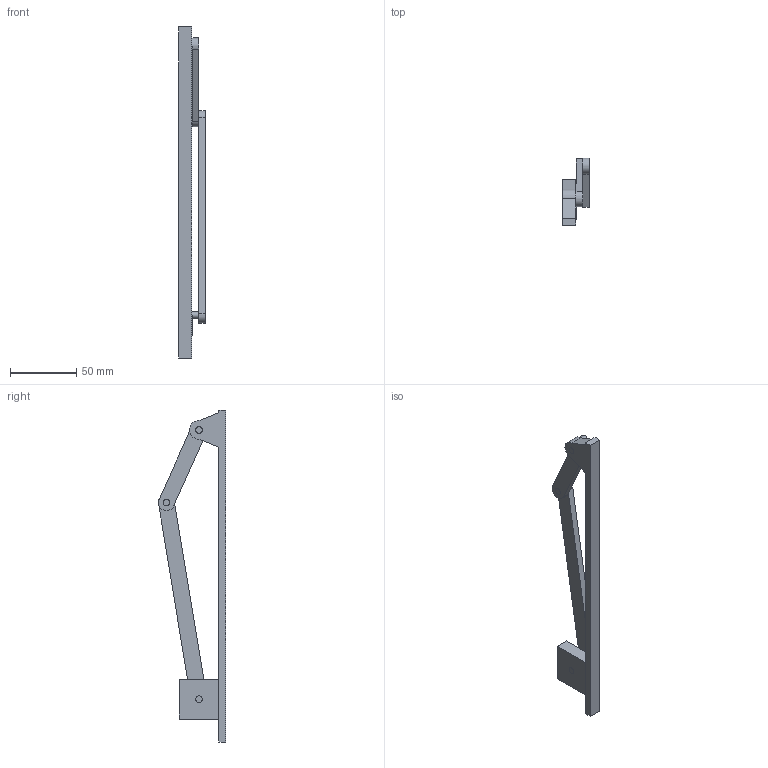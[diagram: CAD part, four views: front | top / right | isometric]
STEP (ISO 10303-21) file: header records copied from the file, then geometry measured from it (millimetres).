
FILE_DESCRIPTION (( 'STEP AP203' ), '1' );
FILE_NAME ('mecanismo biela manivela corredor.STEP', '2025-11-09T20:00:49', ( 'msi i7' ), ( '' ), 'SwSTEP 2.0', 'SolidWorks 2025', '' );
FILE_SCHEMA (( 'CONFIG_CONTROL_DESIGN' ));
Length unit declared in the file: millimetre
Products named in the file (8): mecanismo biela manivela corredor; Biela; Manivela; corredor; pin; pin -2; base; pin - 3
Assembly tree (7 placements, depth 2):
  mecanismo biela manivela corredor
    base
    Manivela
    Biela
    pin
    pin - 3
    pin -2
    corredor
Bounding box: 20 x 50.49 x 250 mm (x, y, z)
Volume: 39098.8 mm3; surface area: 20823.7 mm2
Topology: 7 solids, 7 shells, 54 faces, 120 edges, 80 vertices
Faces by surface type: plane 29, cylinder 25
Entity records: 2388 total; most frequent: DIRECTION 298, CARTESIAN_POINT 264, ORIENTED_EDGE 240, EDGE_CURVE 120, AXIS2_PLACEMENT_3D 114, VERTEX_POINT 80, PERSON_AND_ORGANIZATION 71, LINE 70
